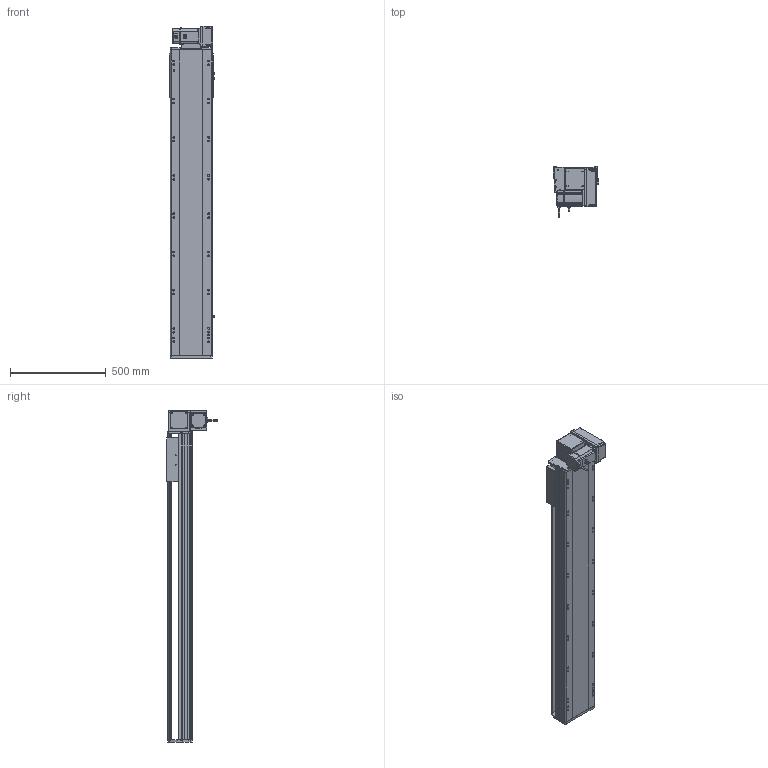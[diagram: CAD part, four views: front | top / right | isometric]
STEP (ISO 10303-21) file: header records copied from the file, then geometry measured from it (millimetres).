
FILE_DESCRIPTION (( 'STEP AP214' ), '1' );
FILE_NAME ('RTB22S-XX-1250-RM-M75-C4.STEP', '2025-12-12T07:48:56', ( '' ), ( '' ), 'SwSTEP 2.0', 'SolidWorks 2018', '' );
FILE_SCHEMA (( 'AUTOMOTIVE_DESIGN' ));
Length unit declared in the file: millimetre
Products named in the file (14): RTB22S-GY-001耜裔^RTB22S-XX-XX-RM-M75-C4; RTB22S-RM-々湍釱蚾饜^RTB22S-XX-XX-RM-M75-C4; RTB22S-L-004賑釱^RTB22S-XX-XX-RM-M75-C4; RTB22S-XX-1250-RM-M75-C4; RTB22S-GY-007奻裔^RTB22S-XX-XX-RM-M75-C4; RTB22S-GY-018P^RTB22S-RM-々湍釱蚾饜_RTB22S-XX-XX-RM-M75-C4; 750W萇儂^RTB22S-XX-XX-RM-M75-C4; RTB22S-GY-017P^RTB22S-RM-々湍釱蚾饜_RTB22S-XX-XX-RM-M75-C4; RTB22S-L-011菁釱^RTB22S-XX-XX-RM-M75-C4; OMRON EE-SX672 传感器^RTB22S-XX-XX-RM-M75-C4; RTB22S-GY-014--々湍釱^RTB22S-RM-々湍釱蚾饜_RTB22S-XX-XX-RM-M75-C4; RTB22S-GY-005P^RTB22S-RM-々湍釱蚾饜_RTB22S-XX-XX-RM-M75-C4; RTB22S-GY-008-M75--萇儂啣^RTB22S-RM-々湍釱蚾饜_RTB22S-XX-XX-RM-M75-C4; RTH22-GY-013外置感应片^RTB22S-XX-XX-RM-M75-C4
Assembly tree (16 placements, depth 3):
  RTB22S-XX-1250-RM-M75-C4
    RTB22S-L-011菁釱^RTB22S-XX-XX-RM-M75-C4
    RTB22S-GY-001耜裔^RTB22S-XX-XX-RM-M75-C4
    750W萇儂^RTB22S-XX-XX-RM-M75-C4
    RTB22S-GY-007奻裔^RTB22S-XX-XX-RM-M75-C4
    RTB22S-L-004賑釱^RTB22S-XX-XX-RM-M75-C4
    RTH22-GY-013外置感应片^RTB22S-XX-XX-RM-M75-C4
    OMRON EE-SX672 传感器^RTB22S-XX-XX-RM-M75-C4  x3
    RTB22S-RM-々湍釱蚾饜^RTB22S-XX-XX-RM-M75-C4
      RTB22S-GY-014--々湍釱^RTB22S-RM-々湍釱蚾饜_RTB22S-XX-XX-RM-M75-C4
      RTB22S-GY-017P^RTB22S-RM-々湍釱蚾饜_RTB22S-XX-XX-RM-M75-C4  x2
      RTB22S-GY-005P^RTB22S-RM-々湍釱蚾饜_RTB22S-XX-XX-RM-M75-C4
      RTB22S-GY-008-M75--萇儂啣^RTB22S-RM-々湍釱蚾饜_RTB22S-XX-XX-RM-M75-C4
      RTB22S-GY-018P^RTB22S-RM-々湍釱蚾饜_RTB22S-XX-XX-RM-M75-C4
Bounding box: 238.5 x 264.7 x 1737.5 mm (x, y, z)
Volume: 24197802.2 mm3; surface area: 2508768.3 mm2
Topology: 15 solids, 15 shells, 2001 faces, 5436 edges, 3482 vertices
Faces by surface type: plane 917, cylinder 634, bspline 296, cone 142, sphere 8, torus 4
Entity records: 53426 total; most frequent: CARTESIAN_POINT 15320, ORIENTED_EDGE 7652, DIRECTION 7380, EDGE_CURVE 3826, AXIS2_PLACEMENT_3D 2610, VERTEX_POINT 2486, LINE 2160, VECTOR 2160
